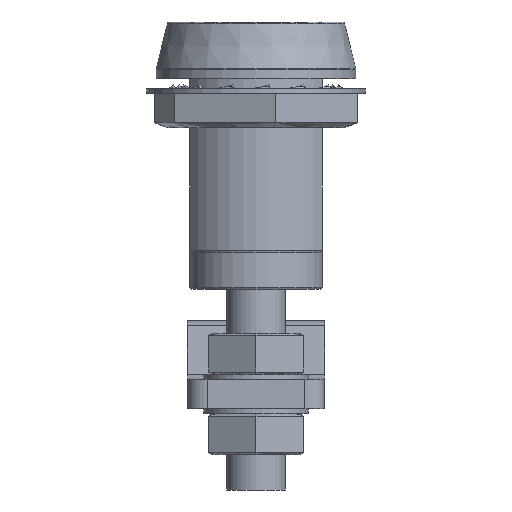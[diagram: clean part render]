
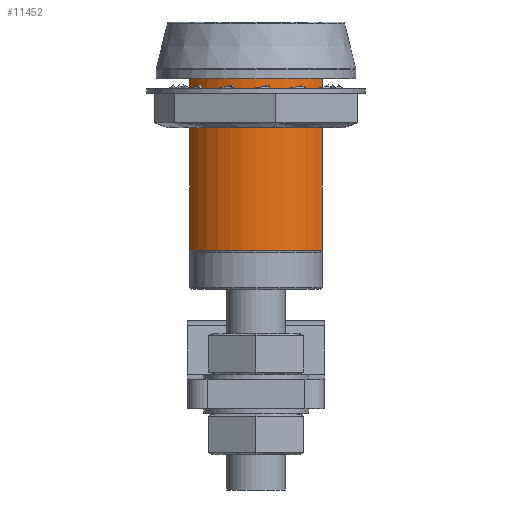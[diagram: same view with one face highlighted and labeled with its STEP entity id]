
A CAD part, front view. The second image highlights one B-rep face of the part: STEP entity #11452.
In plain terms, the highlighted cylindrical face has radius 8 mm (diameter 16 mm), a partial arc.
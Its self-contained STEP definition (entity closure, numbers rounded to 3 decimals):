
#333=LINE('',#16736,#1396);
#344=LINE('',#16814,#1407);
#1396=VECTOR('',#13350,17.5);
#1407=VECTOR('',#13405,17.5);
#2480=CYLINDRICAL_SURFACE('',#12189,8.);
#3141=FACE_OUTER_BOUND('',#3858,.T.);
#3858=EDGE_LOOP('',(#7997,#7998,#7999,#8000));
#4572=CIRCLE('',#12181,8.);
#4575=CIRCLE('',#12186,8.);
#5084=VERTEX_POINT('',#16733);
#5085=VERTEX_POINT('',#16735);
#5096=VERTEX_POINT('',#16797);
#5099=VERTEX_POINT('',#16807);
#6167=EDGE_CURVE('',#5085,#5084,#333,.T.);
#6184=EDGE_CURVE('',#5096,#5084,#4572,.T.);
#6188=EDGE_CURVE('',#5099,#5085,#4575,.T.);
#6192=EDGE_CURVE('',#5099,#5096,#344,.T.);
#7997=ORIENTED_EDGE('',*,*,#6188,.T.);
#7998=ORIENTED_EDGE('',*,*,#6167,.T.);
#7999=ORIENTED_EDGE('',*,*,#6184,.F.);
#8000=ORIENTED_EDGE('',*,*,#6192,.F.);
#11452=ADVANCED_FACE('',(#3141),#2480,.T.);
#12181=AXIS2_PLACEMENT_3D('',#16799,#13386,#13387);
#12186=AXIS2_PLACEMENT_3D('',#16808,#13397,#13398);
#12189=AXIS2_PLACEMENT_3D('',#16815,#13406,#13407);
#13350=DIRECTION('',(0.,0.,-1.));
#13386=DIRECTION('center_axis',(0.,0.,-1.));
#13387=DIRECTION('ref_axis',(0.844,-0.537,0.));
#13397=DIRECTION('center_axis',(0.,0.,-1.));
#13398=DIRECTION('ref_axis',(0.844,-0.537,0.));
#13405=DIRECTION('',(0.,0.,-1.));
#13406=DIRECTION('center_axis',(0.,0.,-1.));
#13407=DIRECTION('ref_axis',(0.844,-0.537,0.));
#16733=CARTESIAN_POINT('',(-6.75,-4.294,-17.5));
#16735=CARTESIAN_POINT('',(-6.75,-4.294,0.));
#16736=CARTESIAN_POINT('',(-6.75,-4.294,0.));
#16797=CARTESIAN_POINT('',(6.75,-4.294,-17.5));
#16799=CARTESIAN_POINT('Origin',(0.,0.,-17.5));
#16807=CARTESIAN_POINT('',(6.75,-4.294,0.));
#16808=CARTESIAN_POINT('Origin',(0.,0.,0.));
#16814=CARTESIAN_POINT('',(6.75,-4.294,0.));
#16815=CARTESIAN_POINT('Origin',(0.,0.,0.));
